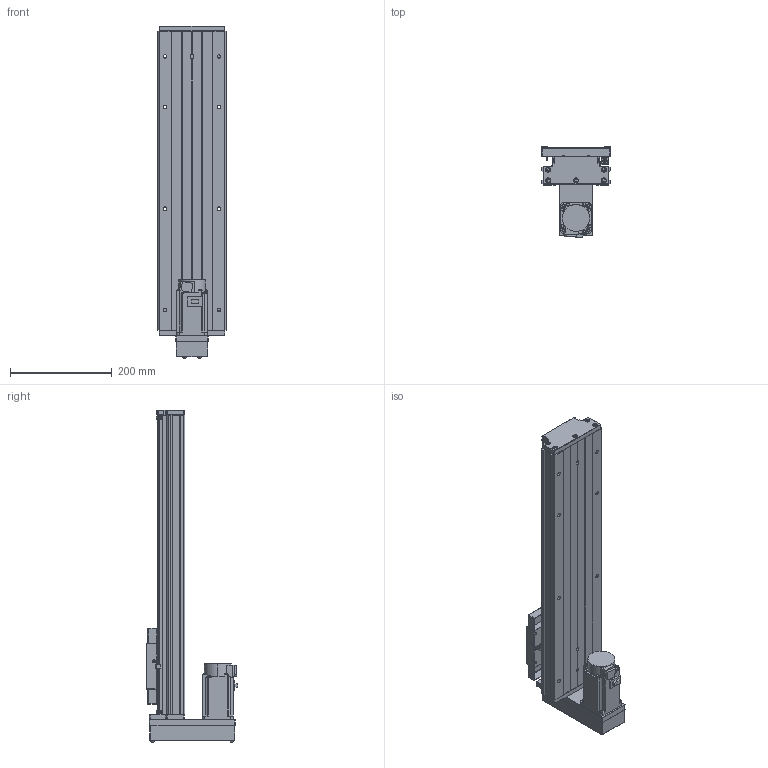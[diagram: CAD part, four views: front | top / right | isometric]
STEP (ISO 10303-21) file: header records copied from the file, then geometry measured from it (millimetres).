
FILE_DESCRIPTION (( 'STEP AP203' ), '1' );
FILE_NAME ('CTH130-400-BM-M40-C4.step', '2023-06-30T02:44:42', ( '微软用户' ), ( '微软中国' ), 'SwSTEP 2.0', 'SolidWorks 2020', '' );
FILE_SCHEMA (( 'CONFIG_CONTROL_DESIGN' ));
Length unit declared in the file: millimetre
Products named in the file (20): す晦芛蹟隊 M3℅5; GTH14-001_400; CTHA60-017; HG-KN43J-S100; CTH130-002_GTH14-002; EE_SX911P_R; GBT 70.2-M4¡Á35_M4¡Á35; GB T308.1-2013-6.35; CTHA60-016; GTH14-015-2_CTHA86-015-2; GTH14-004; GBT 70.1-M3℅5; GTH14-033; GTH14-005; GBT77-2000 M3×3; CTH130-400-BM-M40-C4; GB1155-6X6; CTH130-031; GBT 70.2-M3¡Á5_M3¡Á6; GBT70.1 M5℅16
Assembly tree (60 placements, depth 2):
  CTH130-400-BM-M40-C4
    GTH14-001_400
    CTH130-002_GTH14-002
    GB T308.1-2013-6.35  x2
    GTH14-004
    GTH14-005
    GB1155-6X6  x2
    GBT70.1 M5℅16  x10
    CTHA60-017  x3
    EE_SX911P_R  x3
    CTHA60-016  x2
    GBT 70.1-M3℅5  x6
    GBT77-2000 M3×3  x6
    CTH130-031
    GBT 70.2-M3¡Á5_M3¡Á6  x8
    す晦芛蹟隊 M3℅5  x6
    HG-KN43J-S100
    GBT 70.2-M4¡Á35_M4¡Á35  x4
    GTH14-015-2_CTHA86-015-2
    GTH14-033
Bounding box: 135 x 179.8 x 654.2 mm (x, y, z)
Volume: 3668837.4 mm3; surface area: 660239.2 mm2
Topology: 63 solids, 63 shells, 2425 faces, 5773 edges, 3569 vertices
Faces by surface type: plane 1308, cylinder 638, cone 299, torus 124, sphere 36, bspline 20
Entity records: 43616 total; most frequent: CARTESIAN_POINT 9797, DIRECTION 6342, ORIENTED_EDGE 6252, EDGE_CURVE 3126, AXIS2_PLACEMENT_3D 2158, LINE 2026, VECTOR 2026, VERTEX_POINT 1979
